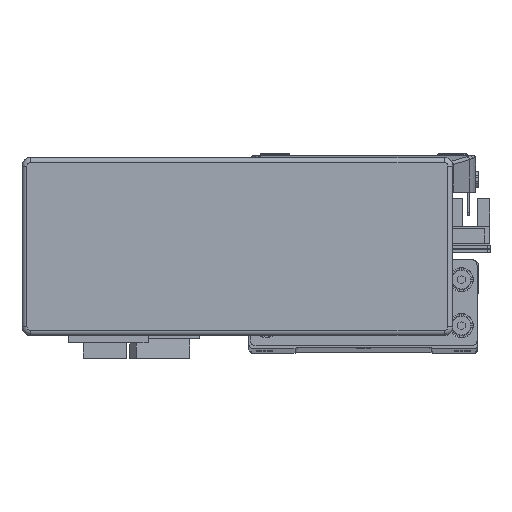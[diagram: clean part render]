
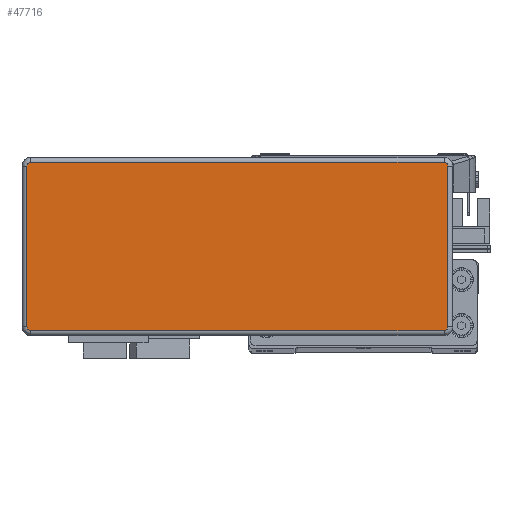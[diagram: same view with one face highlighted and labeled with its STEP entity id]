
A CAD part, top view. The second image highlights one B-rep face of the part: STEP entity #47716.
In plain terms, the highlighted planar face has unit normal (0, 0, 1) as drawn and (0, 0, -1) by its records, which use the part's own axes.
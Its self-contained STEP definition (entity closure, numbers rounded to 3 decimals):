
#3997 = VERTEX_POINT ( 'NONE', #25414 ) ;
#4039 = VERTEX_POINT ( 'NONE', #25458 ) ;
#4041 = VERTEX_POINT ( 'NONE', #25472 ) ;
#4063 = VERTEX_POINT ( 'NONE', #25494 ) ;
#4064 = VERTEX_POINT ( 'NONE', #25480 ) ;
#4080 = VERTEX_POINT ( 'NONE', #25448 ) ;
#4089 = VERTEX_POINT ( 'NONE', #25453 ) ;
#4094 = VERTEX_POINT ( 'NONE', #25459 ) ;
#6967 = EDGE_CURVE ( 'NONE', #4039, #3997, #30205, .T. ) ;
#6968 = EDGE_CURVE ( 'NONE', #3997, #4094, #30209, .T. ) ;
#6997 = EDGE_CURVE ( 'NONE', #4063, #4064, #30312, .T. ) ;
#7000 = EDGE_CURVE ( 'NONE', #4064, #4080, #30259, .T. ) ;
#7012 = EDGE_CURVE ( 'NONE', #4089, #4041, #30270, .T. ) ;
#7021 = EDGE_CURVE ( 'NONE', #4041, #4063, #30294, .T. ) ;
#7029 = EDGE_CURVE ( 'NONE', #4094, #4089, #30322, .T. ) ;
#7041 = EDGE_CURVE ( 'NONE', #4080, #4039, #30329, .T. ) ;
#9690 = EDGE_LOOP ( 'NONE', ( #10570, #10595, #10559, #10578, #10552, #10546, #10514, #10569 ) ) ;
#10514 = ORIENTED_EDGE ( 'NONE', *, *, #6997, .T. ) ;
#10546 = ORIENTED_EDGE ( 'NONE', *, *, #7021, .T. ) ;
#10552 = ORIENTED_EDGE ( 'NONE', *, *, #7012, .T. ) ;
#10559 = ORIENTED_EDGE ( 'NONE', *, *, #6968, .T. ) ;
#10569 = ORIENTED_EDGE ( 'NONE', *, *, #7000, .T. ) ;
#10570 = ORIENTED_EDGE ( 'NONE', *, *, #7041, .T. ) ;
#10578 = ORIENTED_EDGE ( 'NONE', *, *, #7029, .T. ) ;
#10595 = ORIENTED_EDGE ( 'NONE', *, *, #6967, .T. ) ;
#13790 = AXIS2_PLACEMENT_3D ( 'NONE', #31443, #31462, #31467 ) ;
#13802 = AXIS2_PLACEMENT_3D ( 'NONE', #31395, #31392, #31373 ) ;
#13823 = AXIS2_PLACEMENT_3D ( 'NONE', #31411, #31416, #31422 ) ;
#13826 = AXIS2_PLACEMENT_3D ( 'NONE', #31303, #31290, #31312 ) ;
#25414 = CARTESIAN_POINT ( 'NONE',  ( 71.995, -29.295, -32.2 ) ) ;
#25448 = CARTESIAN_POINT ( 'NONE',  ( 73.295, 27.995, -32.2 ) ) ;
#25453 = CARTESIAN_POINT ( 'NONE',  ( -73.295, -27.995, -32.2 ) ) ;
#25458 = CARTESIAN_POINT ( 'NONE',  ( 73.295, -27.995, -32.2 ) ) ;
#25459 = CARTESIAN_POINT ( 'NONE',  ( -71.995, -29.295, -32.2 ) ) ;
#25472 = CARTESIAN_POINT ( 'NONE',  ( -73.295, 27.995, -32.2 ) ) ;
#25480 = CARTESIAN_POINT ( 'NONE',  ( 71.995, 29.295, -32.2 ) ) ;
#25494 = CARTESIAN_POINT ( 'NONE',  ( -71.995, 29.295, -32.2 ) ) ;
#30205 = CIRCLE ( 'NONE', #13826, 1.3 ) ;
#30209 = LINE ( 'NONE', #31309, #30212 ) ;
#30212 = VECTOR ( 'NONE', #31282, 1000. ) ;
#30259 = CIRCLE ( 'NONE', #13802, 1.3 ) ;
#30270 = LINE ( 'NONE', #31419, #30274 ) ;
#30274 = VECTOR ( 'NONE', #31424, 1000. ) ;
#30276 = VECTOR ( 'NONE', #31383, 1000. ) ;
#30294 = CIRCLE ( 'NONE', #13823, 1.3 ) ;
#30312 = LINE ( 'NONE', #31386, #30276 ) ;
#30322 = CIRCLE ( 'NONE', #13790, 1.3 ) ;
#30329 = LINE ( 'NONE', #31480, #30330 ) ;
#30330 = VECTOR ( 'NONE', #31481, 1000. ) ;
#31282 = DIRECTION ( 'NONE',  ( -1., 0., 0. ) ) ;
#31290 = DIRECTION ( 'NONE',  ( 0., 0., -1. ) ) ;
#31303 = CARTESIAN_POINT ( 'NONE',  ( 71.995, -27.995, -32.2 ) ) ;
#31309 = CARTESIAN_POINT ( 'NONE',  ( 71.995, -29.295, -32.2 ) ) ;
#31312 = DIRECTION ( 'NONE',  ( 1., 0., 0. ) ) ;
#31373 = DIRECTION ( 'NONE',  ( 1., 0., 0. ) ) ;
#31383 = DIRECTION ( 'NONE',  ( 1., 0., 0. ) ) ;
#31386 = CARTESIAN_POINT ( 'NONE',  ( 71.995, 29.295, -32.2 ) ) ;
#31392 = DIRECTION ( 'NONE',  ( 0., 0., -1. ) ) ;
#31395 = CARTESIAN_POINT ( 'NONE',  ( 71.995, 27.995, -32.2 ) ) ;
#31411 = CARTESIAN_POINT ( 'NONE',  ( -71.995, 27.995, -32.2 ) ) ;
#31416 = DIRECTION ( 'NONE',  ( 0., 0., -1. ) ) ;
#31419 = CARTESIAN_POINT ( 'NONE',  ( -73.295, -27.995, -32.2 ) ) ;
#31422 = DIRECTION ( 'NONE',  ( 1., 0., 0. ) ) ;
#31424 = DIRECTION ( 'NONE',  ( 0., 1., 0. ) ) ;
#31443 = CARTESIAN_POINT ( 'NONE',  ( -71.995, -27.995, -32.2 ) ) ;
#31462 = DIRECTION ( 'NONE',  ( 0., 0., -1. ) ) ;
#31467 = DIRECTION ( 'NONE',  ( 1., 0., 0. ) ) ;
#31480 = CARTESIAN_POINT ( 'NONE',  ( 73.295, -27.995, -32.2 ) ) ;
#31481 = DIRECTION ( 'NONE',  ( 0., -1., 0. ) ) ;
#38108 = AXIS2_PLACEMENT_3D ( 'NONE', #43987, #43989, #43992 ) ;
#43986 = PLANE ( 'NONE',  #38108 ) ;
#43987 = CARTESIAN_POINT ( 'NONE',  ( 71.995, -27.995, -32.2 ) ) ;
#43989 = DIRECTION ( 'NONE',  ( 0., 0., 1. ) ) ;
#43992 = DIRECTION ( 'NONE',  ( 1., 0., 0. ) ) ;
#44766 = FACE_OUTER_BOUND ( 'NONE', #9690, .T. ) ;
#47716 = ADVANCED_FACE ( 'NONE', ( #44766 ), #43986, .F. ) ;
